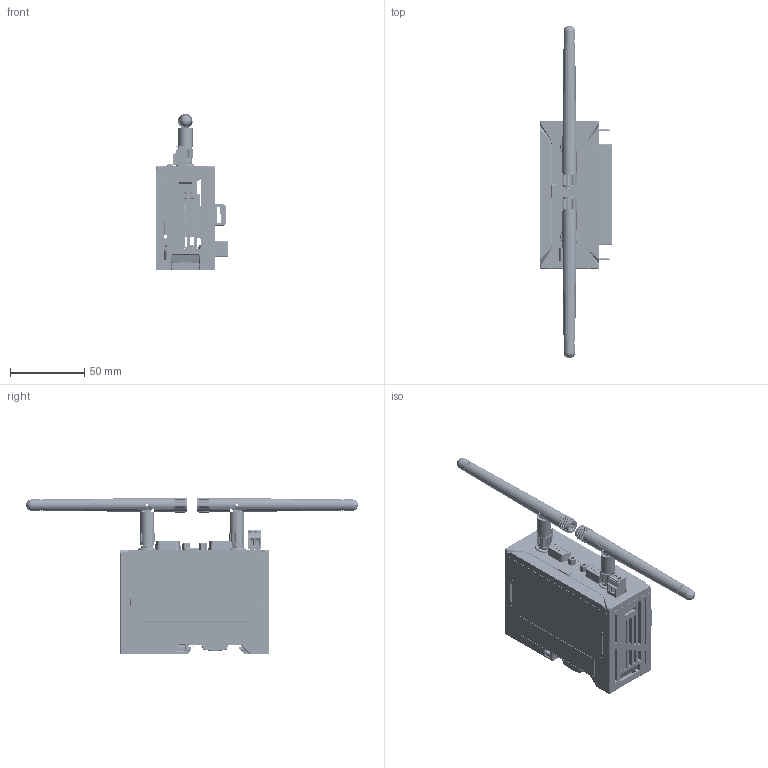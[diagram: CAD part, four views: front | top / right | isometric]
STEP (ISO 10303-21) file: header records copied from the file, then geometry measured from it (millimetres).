
FILE_DESCRIPTION((''),'2;1');
FILE_NAME('0-OPTIC_ASM','2025-02-07T',('18137'),(''),'CREO PARAMETRIC BY PTC INC, 2016050','CREO PARAMETRIC BY PTC INC, 2016050','');
FILE_SCHEMA(('CONFIG_CONTROL_DESIGN'));
Products named in the file (154): 03-PCB; 10025026-X0XX2C-0424; C-2327679-1-11-3D; 03-PCB-JK; SMA-1; WIFI-TX-A_1_1_1; WIFI-TX-B_1_1_1; WIFI-TX_ASM_1_ASM_1_ASM_1_ASM; A-HBC-01B-3SYGD-F3_5; C185939; C185939-PCB; T-2_2; 818000368-3D_1_1; 818000089-3D_1_1; 818000368-3D_ASM; C185939_ASM; C2839837; C2839837-PCB; T-3; C2839837_ASM; C266888; 03-PCB-JK_ASM; 03-PCB-4G-5G-WIFI_ASM; 06-PCB; 10025026-X0XX2C-0424_; C-2327679-1-11-3D_; 06-PCB-JK; RREV0-12133-DP12; 15EDGRC-THR-3_81-02P-13-00A_H_; 15EDGKB-3_81-02P-1Y-100A_H_; 15EDG_ASM; 2-RJ45-TOP; 2-RJ45-BOT; 04-06-PCB-JK_ASM; 04-06-PCB-RJ45_ASM; 05-PCB; 05-PCB-JK; DMR-9P; 05-PCB-JK_ASM; 05-PCB-2DB9_ASM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
Assembly tree (194 placements, depth 8):
  0-OPTIC_ASM
    03-04-05-EXTENSION-MODULE_ASM
      03-04-05-EX-HARDWARE-STACKING_ASM
        03-PCB-4G-5G-WIFI_ASM
          03-PCB
          10025026-X0XX2C-0424
          C-2327679-1-11-3D
          03-PCB-JK_ASM
            03-PCB-JK
            SMA-1  x2
            WIFI-TX_ASM_1_ASM_1_ASM_1_ASM  x2
              WIFI-TX-A_1_1_1
              WIFI-TX-B_1_1_1
            A-HBC-01B-3SYGD-F3_5
            C185939_ASM
              C185939
              C185939-PCB
              T-2_2  x2
              818000368-3D_ASM
                818000368-3D_1_1
                818000089-3D_1_1
            C2839837_ASM
              C2839837
              C2839837-PCB
              T-3
              818000368-3D_ASM
                818000368-3D_1_1
                818000089-3D_1_1
            C266888  x2
        04-06-PCB-RJ45_ASM
          06-PCB
          10025026-X0XX2C-0424_
          C-2327679-1-11-3D_
          04-06-PCB-JK_ASM
            06-PCB-JK
            RREV0-12133-DP12  x4
            A-HBC-01B-3SYGD-F3_5
            15EDG_ASM
              15EDGRC-THR-3_81-02P-13-00A_H_
              15EDGKB-3_81-02P-1Y-100A_H_
            2-RJ45-TOP
            2-RJ45-BOT
        05-PCB-2DB9_ASM
          05-PCB
          10025026-X0XX2C-0424
          C-2327679-1-11-3D
          05-PCB-JK_ASM
            05-PCB-JK
            A-HBC-01B-3SYGD-F3_5
            DMR-9P  x2
      PCB-JK-ZJ_ASM
        PCB-JK-ZJ
        M3XL6-4_2  x4
        SW-P-M3-L6  x4
      ZZ
    03-06-EXTENSION-MODULE-COVER_ASM
      03-EXTENSION-MODULE-COVER_ASM
        03-04-05-BOTTOM-COVER
        03-04-05-RIGHT-COVER
        03-TOP-COVER
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Bounding box: 48.9 x 223.8 x 105.77 mm (x, y, z)
Volume: 284281.1 mm3; surface area: 351810.3 mm2
Topology: 217 solids, 223 shells, 39418 faces, 115008 edges, 75850 vertices
Faces by surface type: plane 25307, cylinder 10857, bspline 1646, sphere 564, cone 416, extrusion 366, torus 258, revolution 4
Entity records: 1056516 total; most frequent: CARTESIAN_POINT 358114, ORIENTED_EDGE 153066, DIRECTION 134445, EDGE_CURVE 76533, VECTOR 55477, LINE 55174, VERTEX_POINT 50989, AXIS2_PLACEMENT_3D 39483
